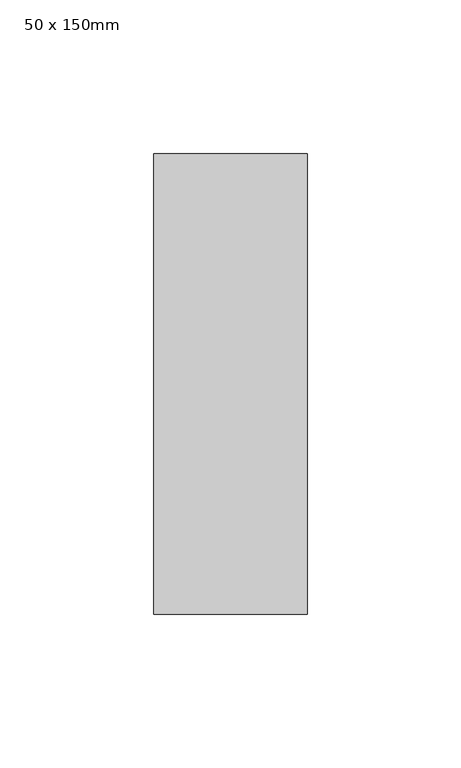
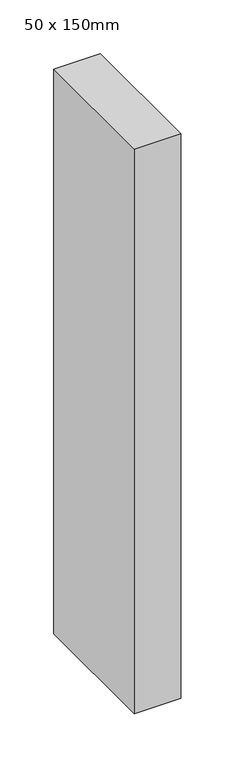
"""IFC4 building model written with IfcOpenShell, lengths in millimetres: member geometry, Prostokątny szpros : 50 x 150mm."""

import ifcopenshell
import ifcopenshell.guid

model = None  # the IFC model being written
_history = None  # IfcOwnerHistory: only IFC2X3 demands one
_inside = {}  # id of a spatial element -> (the spatial element, [elements in it])
_under = {}  # id of a project, library or spatial element -> (it, [spatial elements below it])
_declared = {}  # id of a project -> (the project, [libraries it declares])
_typed = {}  # id of a type object -> (the type object, [elements of that type])
_made_of = {}  # id of a material, layer set ... -> (it, [elements and type objects made of it])


def new_model(schema):
    """Start an empty IFC model of exactly this schema.

    Asked for "IFC4X3", IfcOpenShell would pick the latest addendum, in which some entities
    have other attributes; the version numbers below select the first issue.
    IFC2X3 requires an IfcOwnerHistory on every rooted entity: one is made here for all.
    """
    global model, _history
    if schema == "IFC4X3":
        model = ifcopenshell.file(schema_version=(4, 3, 0, 0))
    else:
        model = ifcopenshell.file(schema=schema)
    _inside.clear()
    _under.clear()
    _declared.clear()
    _typed.clear()
    _made_of.clear()
    _history = None
    if model.schema == "IFC2X3":
        org = make("IfcOrganization", Name="unknown")
        user = make(
            "IfcPersonAndOrganization",
            ThePerson=make("IfcPerson", FamilyName="unknown"),
            TheOrganization=org,
        )
        app = make(
            "IfcApplication",
            ApplicationDeveloper=org,
            Version="unknown",
            ApplicationFullName="unknown",
            ApplicationIdentifier="unknown",
        )
        _history = make(
            "IfcOwnerHistory",
            OwningUser=user,
            OwningApplication=app,
            ChangeAction="ADDED",
            CreationDate=0,
        )
    return model


def make(cls, **values):
    """One entity of the class cls with the attributes given. An attribute that is None is left unset."""
    return model.create_entity(
        cls, **{name: value for name, value in values.items() if value is not None}
    )


def rooted(cls, **values):
    """An entity with a GlobalId (a new one), such as an element, a storey or a relation."""
    return make(cls, GlobalId=ifcopenshell.guid.new(), OwnerHistory=_history, **values)


def si_unit(unit_type, name, prefix=None):
    """IfcSIUnit, for example si_unit("LENGTHUNIT", "METRE", prefix="MILLI")."""
    return make("IfcSIUnit", UnitType=unit_type, Prefix=prefix, Name=name)


def assignment(units):
    """IfcUnitAssignment: the units of a project."""
    return None if units is None else make("IfcUnitAssignment", Units=units)


def point(xyz):
    """IfcCartesianPoint."""
    return None if xyz is None else make("IfcCartesianPoint", Coordinates=xyz)


def direction(xyz):
    """IfcDirection."""
    return None if xyz is None else make("IfcDirection", DirectionRatios=xyz)


def frame(location, z_axis=None, x_axis=None):
    """IfcAxis2Placement3D, a coordinate frame: its origin and axes. An axis left out is left unset."""
    return make(
        "IfcAxis2Placement3D",
        Location=point(location),
        Axis=direction(z_axis),
        RefDirection=direction(x_axis),
    )


def origin():
    """The frame at (0, 0, 0) with its axes left unset."""
    return frame((0.0, 0.0, 0.0))


def place(relative_to, where):
    """IfcLocalPlacement: puts the frame where relative to a parent placement (None: the world)."""
    return make(
        "IfcLocalPlacement", PlacementRelTo=relative_to, RelativePlacement=where
    )


def context(
    kind, dimensions, precision=None, world=None, true_north=None, identifier=None
):
    """IfcGeometricRepresentationContext, for example the 3D "Model" context."""
    return make(
        "IfcGeometricRepresentationContext",
        ContextIdentifier=identifier,
        ContextType=kind,
        CoordinateSpaceDimension=dimensions,
        Precision=precision,
        WorldCoordinateSystem=world,
        TrueNorth=true_north,
    )


def project(units=None, contexts=None):
    """IfcProject with its units and contexts."""
    return rooted(
        "IfcProject",
        Name="project",
        RepresentationContexts=contexts,
        UnitsInContext=assignment(units),
    )


def spatial(cls, under=None, at=None, **own):
    """A site, building, storey or space (cls), placed at a placement, below another one or the project."""
    s = rooted(cls, ObjectPlacement=at, **own)
    if under is not None:
        _under.setdefault(under.id(), (under, []))[1].append(s)
    return s


def polyline(points):
    """IfcPolyline through the points."""
    return make("IfcPolyline", Points=[point(p) for p in points])


def outline(outer, holes=None, kind="AREA"):
    """IfcArbitraryClosedProfileDef: a profile drawn as a closed curve; with holes, ...WithVoids."""
    if holes is None:
        return make("IfcArbitraryClosedProfileDef", ProfileType=kind, OuterCurve=outer)
    return make(
        "IfcArbitraryProfileDefWithVoids",
        ProfileType=kind,
        OuterCurve=outer,
        InnerCurves=holes,
    )


def extrude(swept, where, along, depth):
    """IfcExtrudedAreaSolid: the profile swept, set in the frame where, extruded along a direction by depth."""
    return make(
        "IfcExtrudedAreaSolid",
        SweptArea=swept,
        Position=where,
        ExtrudedDirection=direction(along),
        Depth=depth,
    )


def shape(context_of_items, identifier, shape_type, items):
    """IfcShapeRepresentation: the items that make up one representation, for example the "Body"."""
    return make(
        "IfcShapeRepresentation",
        ContextOfItems=context_of_items,
        RepresentationIdentifier=identifier,
        RepresentationType=shape_type,
        Items=items,
    )


def source(mapping_origin, context_of_items, identifier, shape_type, items):
    """IfcRepresentationMap: a shape defined once, which mapped items show again and again."""
    return make(
        "IfcRepresentationMap",
        MappingOrigin=mapping_origin,
        MappedRepresentation=shape(context_of_items, identifier, shape_type, items),
    )


def transform(
    local_origin,
    x_axis=None,
    y_axis=None,
    z_axis=None,
    scale=None,
    scale2=None,
    scale3=None,
    uniform=True,
):
    """IfcCartesianTransformationOperator3D, or its non-uniform kind. x_axis, y_axis, z_axis: its Axis1, 2, 3."""
    if uniform:
        return make(
            "IfcCartesianTransformationOperator3D",
            Axis1=direction(x_axis),
            Axis2=direction(y_axis),
            LocalOrigin=point(local_origin),
            Scale=scale,
            Axis3=direction(z_axis),
        )
    return make(
        "IfcCartesianTransformationOperator3DnonUniform",
        Axis1=direction(x_axis),
        Axis2=direction(y_axis),
        LocalOrigin=point(local_origin),
        Scale=scale,
        Axis3=direction(z_axis),
        Scale2=scale2,
        Scale3=scale3,
    )


def mapped(mapping_source, mapping_target):
    """IfcMappedItem: shows the shape of a source again, moved by a transform."""
    return make(
        "IfcMappedItem", MappingSource=mapping_source, MappingTarget=mapping_target
    )


def made_of(thing, what):
    """Note that an element or type object is made of a material, layer set ...; save() writes the relation."""
    if what is not None:
        _made_of.setdefault(what.id(), (what, []))[1].append(thing)
    return thing


def element(
    cls,
    number,
    at=None,
    inside=None,
    cuts=None,
    type_object=None,
    material=None,
    context=None,
    identifier="Body",
    shape_type=None,
    held_by="IfcProductDefinitionShape",
    body=None,
    shapes=None,
    **own,
):
    """One element of the class cls, such as IfcWall. Its Tag is "e" and its number.

    at: its placement. inside: the storey or other place that contains it. cuts: it is an
    opening in that element (IfcRelVoidsElement). A single representation is given by context,
    identifier, shape_type and body (its items); several are given by shapes. held_by: the class
    of the entity that holds the representations. save() writes the other relations.
    """
    e = rooted(cls, Tag="e%d" % number, ObjectPlacement=at, **own)
    if body is not None:
        shapes = [shape(context, identifier, shape_type, body)]
    if shapes is not None:
        e.Representation = make(held_by, Representations=shapes)
    if inside is not None:
        _inside.setdefault(inside.id(), (inside, []))[1].append(e)
    if cuts is not None:
        rooted(
            "IfcRelVoidsElement", RelatingBuildingElement=cuts, RelatedOpeningElement=e
        )
    if type_object is not None:
        _typed.setdefault(type_object.id(), (type_object, []))[1].append(e)
    return made_of(e, material)


def aggregate(whole, parts):
    """IfcRelAggregates: a whole, such as a stair, and the parts it consists of."""
    return rooted("IfcRelAggregates", RelatingObject=whole, RelatedObjects=parts)


def save(model, path):
    """Write the relations noted so far, then the file.

    IfcRelAggregates (storeys below a building ...), IfcRelContainedInSpatialStructure (elements
    in a storey), IfcRelDefinesByType, IfcRelAssociatesMaterial and IfcRelDeclares: one each for
    every whole, place, type object, material and project.
    """
    for whole, parts in _under.values():
        aggregate(whole, parts)
    for where, things in _inside.values():
        rooted(
            "IfcRelContainedInSpatialStructure",
            RelatedElements=things,
            RelatingStructure=where,
        )
    for kind, things in _typed.values():
        rooted("IfcRelDefinesByType", RelatedObjects=things, RelatingType=kind)
    for what, things in _made_of.values():
        rooted("IfcRelAssociatesMaterial", RelatedObjects=things, RelatingMaterial=what)
    for by, libraries in _declared.values():
        rooted("IfcRelDeclares", RelatingContext=by, RelatedDefinitions=libraries)
    model.write(path)


def member_50_x_150mm_7fb9bacb(model_context):
    return source(origin(), model_context, "Body", "SweptSolid", [
        extrude(outline(polyline([(25.0, 75.0), (25.0, -75.0), (-25.0, -75.0), (-25.0, 75.0), (25.0, 75.0)])), frame((0.0, 0.0, -641.6666666), z_axis=(0.0, 0.0, 1.0), x_axis=(1.0, 0.0, 0.0)), (0.0, 0.0, 1.0), 641.6666666),
    ])


if __name__ == "__main__":
    model = new_model("IFC4")
    model_context = context("Model", 3, world=origin())
    ifc_project = project(units=[si_unit("LENGTHUNIT", "METRE", prefix="MILLI")], contexts=[model_context])
    site = spatial("IfcSite", under=ifc_project)
    building = spatial("IfcBuilding", under=site)
    placement = place(None, origin())
    member_50_x_150mm_shape = member_50_x_150mm_7fb9bacb(model_context)
    element("IfcMember", 1, ObjectType="Prostokątny szpros : 50 x 150mm", at=placement, inside=building, context=model_context, shape_type="MappedRepresentation", body=[
        mapped(member_50_x_150mm_shape, transform((0.0, 0.0, 0.0), x_axis=(1.0, 0.0, 0.0), y_axis=(0.0, 1.0, 0.0), z_axis=(0.0, 0.0, 1.0))),
    ])
    save(model, "model.ifc")
